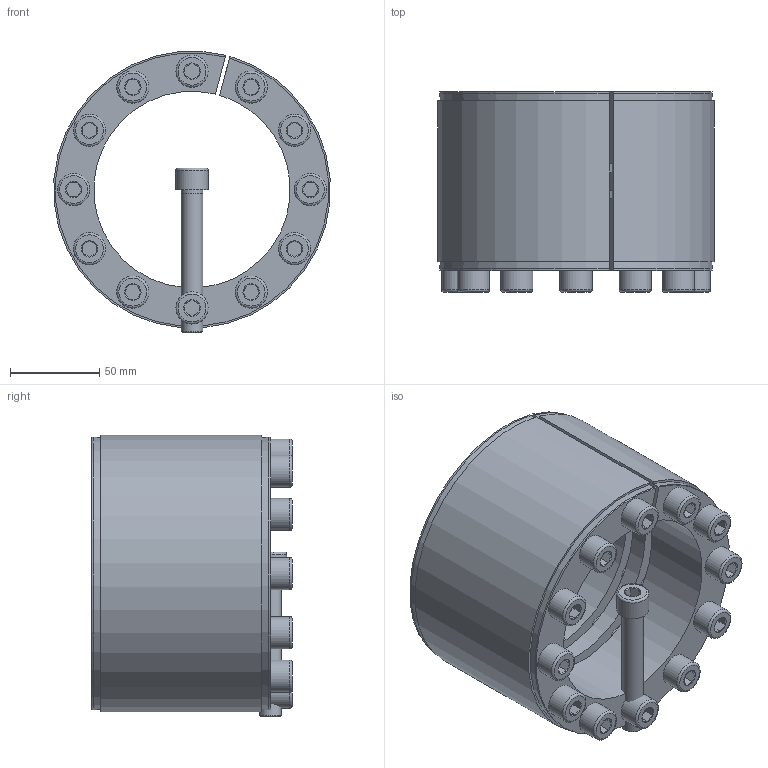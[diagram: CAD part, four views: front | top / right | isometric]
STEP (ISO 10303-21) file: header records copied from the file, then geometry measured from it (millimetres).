
FILE_DESCRIPTION( ( 'Unknown' ), '1' );
FILE_NAME( 'C:/Dokumente und Einstellungen/Sven/Desktop/homepage/cad - homepage/KBS11/KBS 11 - 110 x 155.stp', 'Unknown', ( 'Unknown' ), ( 'Unknown' ), 'XStep 1.0', 'Unknown', ' ' );
FILE_SCHEMA( ( 'automotive_design' ) );
Length unit declared in the file: millimetre
Products named in the file (3): Assem1; KBS 11 - 110 x 155; ISO EN DIN 4762 M12x80
Bounding box: 154.52 x 112 x 157.3 mm (x, y, z)
Volume: 1611731.9 mm3; surface area: 394667.7 mm2
Topology: 15 solids, 15 shells, 437 faces, 929 edges, 574 vertices
Faces by surface type: plane 176, cylinder 136, cone 99, torus 26
Full cylindrical faces by diameter (mm): 11 x13, 12 x98, 18 x13
Entity records: 3002 total; most frequent: CARTESIAN_POINT 457, DIRECTION 444, ORIENTED_EDGE 322, AXIS2_PLACEMENT_3D 202, EDGE_LOOP 200, EDGE_CURVE 161, VERTEX_POINT 131, FACE_OUTER_BOUND 123
